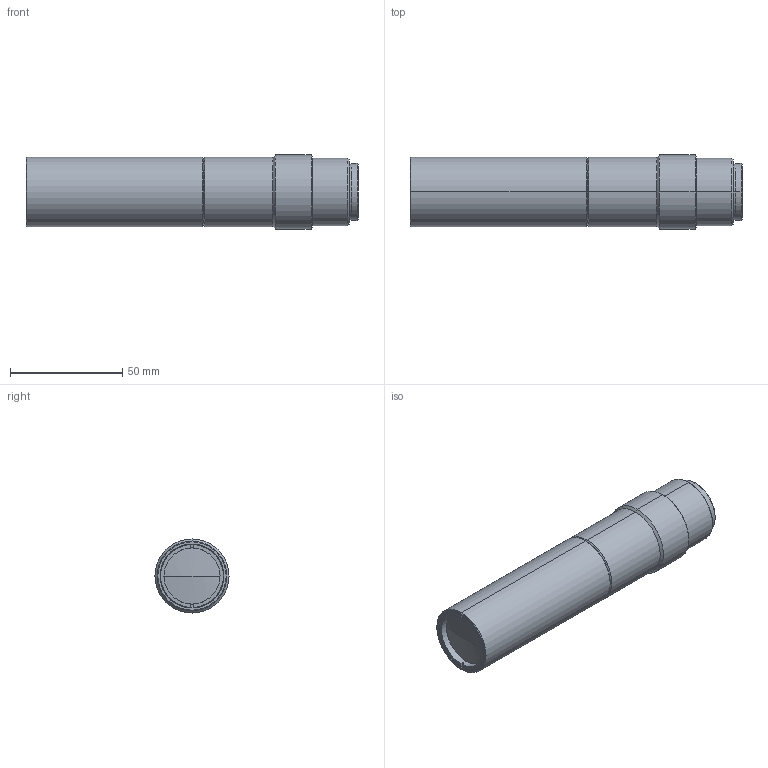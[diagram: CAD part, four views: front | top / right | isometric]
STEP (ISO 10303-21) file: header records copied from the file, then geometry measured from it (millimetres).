
FILE_DESCRIPTION (( 'STEP AP214' ), '1' );
FILE_NAME ('FJ1379-001／TEC-V1065MPW.STEP', '2021-03-03T07:18:14', ( '' ), ( '' ), 'SwSTEP 2.0', 'SolidWorks 2019', '' );
FILE_SCHEMA (( 'AUTOMOTIVE_DESIGN' ));
Length unit declared in the file: millimetre
Products named in the file (7): FJ1379-106-R01(梨地,塗装); FJ1379-102-R00; FJ1379-104-R02(梨地,塗装); FJ1379-G01-D; FJ1379-G06-D; FJ1379-101-R01(梨地,塗装); FJ1379-001／TEC-V1065MPW
Assembly tree (6 placements, depth 2):
  FJ1379-001／TEC-V1065MPW
    FJ1379-101-R01(梨地,塗装)
    FJ1379-G01-D
    FJ1379-102-R00
    FJ1379-104-R02(梨地,塗装)
    FJ1379-106-R01(梨地,塗装)
    FJ1379-G06-D
Bounding box: 147.87 x 33 x 33 mm (x, y, z)
Volume: 50782.8 mm3; surface area: 37057.6 mm2
Topology: 6 solids, 6 shells, 190 faces, 394 edges, 250 vertices
Faces by surface type: cylinder 88, plane 50, cone 44, sphere 8
Entity records: 5424 total; most frequent: DIRECTION 1032, CARTESIAN_POINT 855, ORIENTED_EDGE 788, AXIS2_PLACEMENT_3D 443, EDGE_CURVE 394, VERTEX_POINT 250, CIRCLE 244, EDGE_LOOP 232
